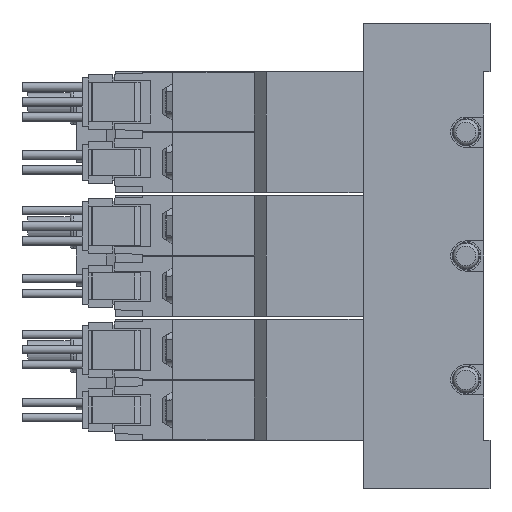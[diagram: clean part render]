
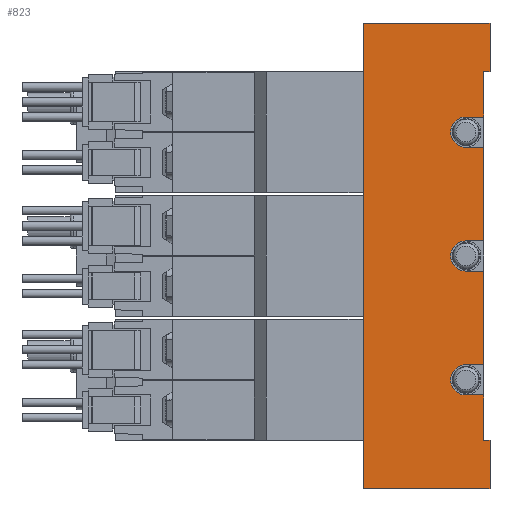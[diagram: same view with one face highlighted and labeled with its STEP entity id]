
A CAD part, left-side view. The second image highlights one B-rep face of the part: STEP entity #823.
In plain terms, the highlighted planar face has unit normal (-1, 0, 0) as drawn and (1, 0, 0) by its records, which use the part's own axes.
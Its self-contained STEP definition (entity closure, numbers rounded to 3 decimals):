
#823=ADVANCED_FACE('',(#1802),#1803,.F.);
#1802=FACE_OUTER_BOUND('',#2816,.T.);
#1803=PLANE('',#2817);
#2816=EDGE_LOOP('',(#6252,#6253,#6254,#6255,#6256,#6257,#6258,#6259,#6260,#6261,#6262,#6263,#6264,#6265,#6266,#6267,#6268,#6269,#6270,#6271));
#2817=AXIS2_PLACEMENT_3D('',#6272,#6273,#6274);
#6252=ORIENTED_EDGE('',*,*,#7460,.T.);
#6253=ORIENTED_EDGE('',*,*,#7394,.T.);
#6254=ORIENTED_EDGE('',*,*,#7405,.F.);
#6255=ORIENTED_EDGE('',*,*,#7473,.F.);
#6256=ORIENTED_EDGE('',*,*,#7493,.T.);
#6257=ORIENTED_EDGE('',*,*,#7447,.T.);
#6258=ORIENTED_EDGE('',*,*,#7502,.T.);
#6259=ORIENTED_EDGE('',*,*,#7389,.F.);
#6260=ORIENTED_EDGE('',*,*,#7482,.F.);
#6261=ORIENTED_EDGE('',*,*,#7503,.F.);
#6262=ORIENTED_EDGE('',*,*,#7504,.T.);
#6263=ORIENTED_EDGE('',*,*,#7505,.F.);
#6264=ORIENTED_EDGE('',*,*,#7506,.F.);
#6265=ORIENTED_EDGE('',*,*,#7413,.F.);
#6266=ORIENTED_EDGE('',*,*,#7507,.T.);
#6267=ORIENTED_EDGE('',*,*,#7508,.F.);
#6268=ORIENTED_EDGE('',*,*,#7436,.F.);
#6269=ORIENTED_EDGE('',*,*,#7456,.F.);
#6270=ORIENTED_EDGE('',*,*,#7509,.T.);
#6271=ORIENTED_EDGE('',*,*,#7455,.T.);
#6272=CARTESIAN_POINT('',(17.5,1.0,38.5));
#6273=DIRECTION('',(-1.0,0.0,0.0));
#6274=DIRECTION('',(0.0,0.0,1.0));
#7389=EDGE_CURVE('',#9147,#9148,#9149,.T.);
#7394=EDGE_CURVE('',#9157,#9158,#9159,.T.);
#7405=EDGE_CURVE('',#9177,#9158,#9179,.T.);
#7413=EDGE_CURVE('',#9194,#9195,#9196,.T.);
#7436=EDGE_CURVE('',#9236,#9238,#9239,.T.);
#7447=EDGE_CURVE('',#9259,#9257,#9260,.T.);
#7455=EDGE_CURVE('',#9266,#9272,#9274,.T.);
#7456=EDGE_CURVE('',#9275,#9236,#9276,.T.);
#7460=EDGE_CURVE('',#9272,#9157,#9282,.T.);
#7473=EDGE_CURVE('',#9302,#9177,#9304,.T.);
#7482=EDGE_CURVE('',#9319,#9147,#9321,.T.);
#7493=EDGE_CURVE('',#9302,#9259,#9339,.T.);
#7502=EDGE_CURVE('',#9257,#9148,#9348,.T.);
#7503=EDGE_CURVE('',#9349,#9319,#9350,.T.);
#7504=EDGE_CURVE('',#9349,#9351,#9352,.T.);
#7505=EDGE_CURVE('',#9353,#9351,#9354,.T.);
#7506=EDGE_CURVE('',#9195,#9353,#9355,.T.);
#7507=EDGE_CURVE('',#9194,#9356,#9357,.T.);
#7508=EDGE_CURVE('',#9238,#9356,#9358,.T.);
#7509=EDGE_CURVE('',#9275,#9266,#9359,.T.);
#9147=VERTEX_POINT('',#12039);
#9148=VERTEX_POINT('',#12040);
#9149=LINE('',#12041,#12042);
#9157=VERTEX_POINT('',#12054);
#9158=VERTEX_POINT('',#12055);
#9159=LINE('',#12056,#12057);
#9177=VERTEX_POINT('',#12081);
#9179=LINE('',#12084,#12085);
#9194=VERTEX_POINT('',#12100);
#9195=VERTEX_POINT('',#12101);
#9196=LINE('',#12102,#12103);
#9236=VERTEX_POINT('',#12153);
#9238=VERTEX_POINT('',#12156);
#9239=CIRCLE('',#12157,2.5);
#9257=VERTEX_POINT('',#12264);
#9259=VERTEX_POINT('',#12267);
#9260=LINE('',#12268,#12269);
#9266=VERTEX_POINT('',#12278);
#9272=VERTEX_POINT('',#12287);
#9274=LINE('',#12290,#12291);
#9275=VERTEX_POINT('',#12292);
#9276=LINE('',#12293,#12294);
#9282=LINE('',#12303,#12304);
#9302=VERTEX_POINT('',#12329);
#9304=LINE('',#12332,#12333);
#9319=VERTEX_POINT('',#12348);
#9321=CIRCLE('',#12351,2.5);
#9339=LINE('',#12371,#12372);
#9348=LINE('',#12384,#12385);
#9349=VERTEX_POINT('',#12386);
#9350=LINE('',#12387,#12388);
#9351=VERTEX_POINT('',#12389);
#9352=LINE('',#12390,#12391);
#9353=VERTEX_POINT('',#12392);
#9354=LINE('',#12393,#12394);
#9355=CIRCLE('',#12395,2.5);
#9356=VERTEX_POINT('',#12396);
#9357=LINE('',#12397,#12398);
#9358=LINE('',#12399,#12400);
#9359=LINE('',#12401,#12402);
#12039=CARTESIAN_POINT('',(17.5,4.0,23.0));
#12040=CARTESIAN_POINT('',(17.5,1.0,23.0));
#12041=CARTESIAN_POINT('',(17.5,1.0,23.0));
#12042=VECTOR('',#13628,1.0);
#12054=CARTESIAN_POINT('',(17.5,0.0,-38.5));
#12055=CARTESIAN_POINT('',(17.5,21.0,-38.5));
#12056=CARTESIAN_POINT('',(17.5,1.0,-38.5));
#12057=VECTOR('',#13633,1.0);
#12081=CARTESIAN_POINT('',(17.5,21.0,38.5));
#12084=CARTESIAN_POINT('',(17.5,21.0,38.5));
#12085=VECTOR('',#13650,1.0);
#12100=CARTESIAN_POINT('',(17.5,1.0,-2.5));
#12101=CARTESIAN_POINT('',(17.5,4.0,-2.5));
#12102=CARTESIAN_POINT('',(17.5,1.0,-2.5));
#12103=VECTOR('',#13672,1.0);
#12153=CARTESIAN_POINT('',(17.5,4.0,-23.0));
#12156=CARTESIAN_POINT('',(17.5,4.0,-18.0));
#12157=AXIS2_PLACEMENT_3D('',#13717,#13718,#13719);
#12264=CARTESIAN_POINT('',(17.5,1.0,30.5));
#12267=CARTESIAN_POINT('',(17.5,0.0,30.5));
#12268=CARTESIAN_POINT('',(17.5,0.0,30.5));
#12269=VECTOR('',#13740,1.0);
#12278=CARTESIAN_POINT('',(17.5,1.0,-30.5));
#12287=CARTESIAN_POINT('',(17.5,0.0,-30.5));
#12290=CARTESIAN_POINT('',(17.5,4.0,-30.5));
#12291=VECTOR('',#13748,1.0);
#12292=CARTESIAN_POINT('',(17.5,1.0,-23.0));
#12293=CARTESIAN_POINT('',(17.5,1.0,-23.0));
#12294=VECTOR('',#13749,1.0);
#12303=CARTESIAN_POINT('',(17.5,0.0,-30.5));
#12304=VECTOR('',#13753,1.0);
#12329=CARTESIAN_POINT('',(17.5,0.0,38.5));
#12332=CARTESIAN_POINT('',(17.5,1.0,38.5));
#12333=VECTOR('',#13778,1.0);
#12348=CARTESIAN_POINT('',(17.5,4.0,18.0));
#12351=AXIS2_PLACEMENT_3D('',#13801,#13802,#13803);
#12371=CARTESIAN_POINT('',(17.5,0.0,38.5));
#12372=VECTOR('',#13830,1.0);
#12384=CARTESIAN_POINT('',(17.5,1.0,38.5));
#12385=VECTOR('',#13840,1.0);
#12386=CARTESIAN_POINT('',(17.5,1.0,18.0));
#12387=CARTESIAN_POINT('',(17.5,1.0,18.0));
#12388=VECTOR('',#13841,1.0);
#12389=CARTESIAN_POINT('',(17.5,1.0,2.5));
#12390=CARTESIAN_POINT('',(17.5,1.0,38.5));
#12391=VECTOR('',#13842,1.0);
#12392=CARTESIAN_POINT('',(17.5,4.0,2.5));
#12393=CARTESIAN_POINT('',(17.5,1.0,2.5));
#12394=VECTOR('',#13843,1.0);
#12395=AXIS2_PLACEMENT_3D('',#13844,#13845,#13846);
#12396=CARTESIAN_POINT('',(17.5,1.0,-18.0));
#12397=CARTESIAN_POINT('',(17.5,1.0,38.5));
#12398=VECTOR('',#13847,1.0);
#12399=CARTESIAN_POINT('',(17.5,1.0,-18.0));
#12400=VECTOR('',#13848,1.0);
#12401=CARTESIAN_POINT('',(17.5,1.0,38.5));
#12402=VECTOR('',#13849,1.0);
#13628=DIRECTION('',(0.0,-1.0,0.0));
#13633=DIRECTION('',(0.0,1.0,0.0));
#13650=DIRECTION('',(0.0,0.0,-1.0));
#13672=DIRECTION('',(0.0,1.0,0.0));
#13717=CARTESIAN_POINT('',(17.5,4.0,-20.5));
#13718=DIRECTION('',(1.0,0.0,-0.0));
#13719=DIRECTION('',(0.0,0.0,1.0));
#13740=DIRECTION('',(0.0,1.0,0.0));
#13748=DIRECTION('',(0.0,-1.0,0.0));
#13749=DIRECTION('',(0.0,1.0,0.0));
#13753=DIRECTION('',(0.0,0.0,-1.0));
#13778=DIRECTION('',(0.0,1.0,0.0));
#13801=CARTESIAN_POINT('',(17.5,4.0,20.5));
#13802=DIRECTION('',(1.0,0.0,-0.0));
#13803=DIRECTION('',(0.0,0.0,1.0));
#13830=DIRECTION('',(0.0,0.0,-1.0));
#13840=DIRECTION('',(0.0,0.0,-1.0));
#13841=DIRECTION('',(0.0,1.0,0.0));
#13842=DIRECTION('',(0.0,0.0,-1.0));
#13843=DIRECTION('',(0.0,-1.0,0.0));
#13844=CARTESIAN_POINT('',(17.5,4.0,0.0));
#13845=DIRECTION('',(1.0,0.0,-0.0));
#13846=DIRECTION('',(0.0,0.0,1.0));
#13847=DIRECTION('',(0.0,0.0,-1.0));
#13848=DIRECTION('',(0.0,-1.0,0.0));
#13849=DIRECTION('',(0.0,0.0,-1.0));
